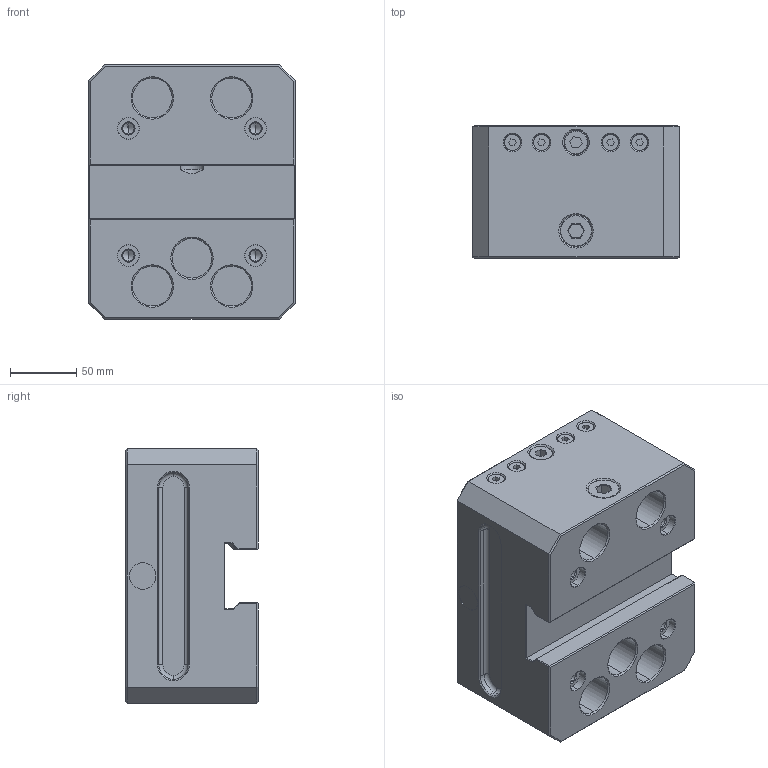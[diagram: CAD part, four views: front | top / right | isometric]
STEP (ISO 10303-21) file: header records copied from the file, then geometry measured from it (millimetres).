
FILE_DESCRIPTION (( 'STEP AP214' ), '1' );
FILE_NAME ('73487.STEP', '2023-09-12T11:19:15', ( '' ), ( '' ), 'SwSTEP 2.0', 'SolidWorks 2021', '' );
FILE_SCHEMA (( 'AUTOMOTIVE_DESIGN' ));
Length unit declared in the file: millimetre
Products named in the file (1): 73487
Bounding box: 156 x 100 x 192 mm (x, y, z)
Volume: 2312942.9 mm3; surface area: 232532.5 mm2
Topology: 13 solids, 13 shells, 485 faces, 1137 edges, 686 vertices
Faces by surface type: plane 205, cylinder 140, cone 116, torus 24
Entity records: 21233 total; most frequent: CARTESIAN_POINT 4587, DIRECTION 2375, ORIENTED_EDGE 2258, EDGE_CURVE 1129, AXIS2_PLACEMENT_3D 864, VERTEX_POINT 686, VECTOR 647, LINE 647
